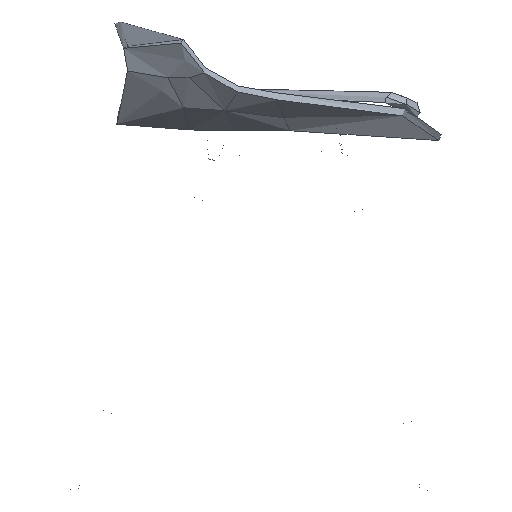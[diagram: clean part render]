
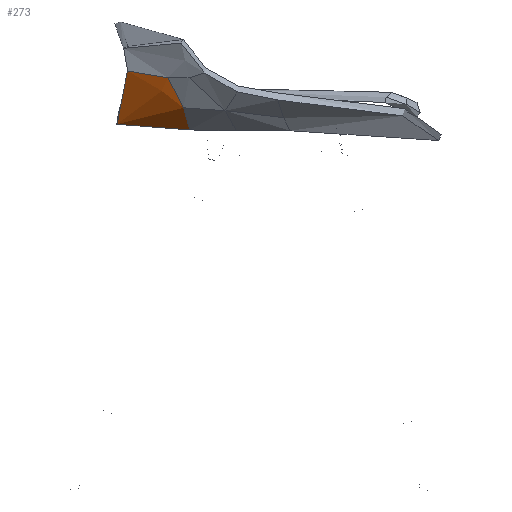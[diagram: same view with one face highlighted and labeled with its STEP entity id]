
A CAD part, left-side view. The second image highlights one B-rep face of the part: STEP entity #273.
In plain terms, the highlighted free-form (B-spline) face has degree [3, 3] with [8, 7] control points.
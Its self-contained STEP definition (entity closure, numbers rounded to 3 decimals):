
#273=ADVANCED_FACE('',(#398),#1859,.T.);
#398=FACE_OUTER_BOUND('',#523,.T.);
#523=EDGE_LOOP('',(#762,#763,#764,#765,#766));
#762=ORIENTED_EDGE('',*,*,#1247,.T.);
#763=ORIENTED_EDGE('',*,*,#1252,.F.);
#764=ORIENTED_EDGE('',*,*,#1256,.T.);
#765=ORIENTED_EDGE('',*,*,#1255,.F.);
#766=ORIENTED_EDGE('',*,*,#1248,.F.);
#1247=EDGE_CURVE('',#1684,#1694,#1539,.T.);
#1248=EDGE_CURVE('',#1684,#1685,#1540,.T.);
#1252=EDGE_CURVE('',#1698,#1694,#1544,.T.);
#1255=EDGE_CURVE('',#1685,#1691,#1547,.T.);
#1256=EDGE_CURVE('',#1698,#1691,#1548,.T.);
#1539=B_SPLINE_CURVE_WITH_KNOTS('',3,(#8699,#8700,#8701,#8702,#8703,#8704,
#8705,#8706),.UNSPECIFIED.,.F.,.F.,(4,1,3,4),(-1.,-0.667,-0.333,
0.),.UNSPECIFIED.);
#1540=B_SPLINE_CURVE_WITH_KNOTS('',3,(#8707,#8708,#8709,#8710,#8711,#8712,
#8713,#8714,#8715),.UNSPECIFIED.,.F.,.F.,(4,1,1,1,1,1,4),(-1.,-0.75,-0.5,
-0.375,-0.25,-0.125,0.),.UNSPECIFIED.);
#1544=B_SPLINE_CURVE_WITH_KNOTS('',3,(#8743,#8744,#8745,#8746,#8747,#8748,
#8749),.UNSPECIFIED.,.F.,.F.,(4,1,1,1,4),(-1.,-0.75,-0.5,-0.25,0.),
 .UNSPECIFIED.);
#1547=B_SPLINE_CURVE_WITH_KNOTS('',3,(#8768,#8769,#8770,#8771,#8772,#8773,
#8774,#8775,#8776),.UNSPECIFIED.,.F.,.F.,(4,1,1,1,1,1,4),(-1.,-0.875,-0.75,
-0.625,-0.5,-0.25,0.),.UNSPECIFIED.);
#1548=B_SPLINE_CURVE_WITH_KNOTS('',3,(#8777,#8778,#8779,#8780,#8781,#8782,
#8783,#8784),.UNSPECIFIED.,.F.,.F.,(4,3,1,4),(-1.,-0.667,-0.333,
0.),.UNSPECIFIED.);
#1684=VERTEX_POINT('',#7961);
#1685=VERTEX_POINT('',#7962);
#1691=VERTEX_POINT('',#7968);
#1694=VERTEX_POINT('',#7971);
#1698=VERTEX_POINT('',#7975);
#1859=B_SPLINE_SURFACE_WITH_KNOTS('',3,3,((#5860,#5861,#5862,#5863,#5864,
#5865,#5866),(#5867,#5868,#5869,#5870,#5871,#5872,#5873),(#5874,#5875,#5876,
#5877,#5878,#5879,#5880),(#5881,#5882,#5883,#5884,#5885,#5886,#5887),(#5888,
#5889,#5890,#5891,#5892,#5893,#5894),(#5895,#5896,#5897,#5898,#5899,#5900,
#5901),(#5902,#5903,#5904,#5905,#5906,#5907,#5908),(#5909,#5910,#5911,#5912,
#5913,#5914,#5915)),.UNSPECIFIED.,.F.,.F.,.F.,(4,1,3,4),(4,1,1,1,4),(-2.,
-1.,0.,1.),(-2.,-1.,0.,1.,2.),.UNSPECIFIED.);
#5860=CARTESIAN_POINT('',(-221.75,141.453,520.63));
#5861=CARTESIAN_POINT('',(-219.235,138.069,514.161));
#5862=CARTESIAN_POINT('',(-213.581,130.629,500.993));
#5863=CARTESIAN_POINT('',(-201.883,120.779,482.274));
#5864=CARTESIAN_POINT('',(-185.627,115.57,466.317));
#5865=CARTESIAN_POINT('',(-172.377,114.221,458.154));
#5866=CARTESIAN_POINT('',(-165.306,113.836,454.85));
#5867=CARTESIAN_POINT('',(-220.903,146.316,521.035));
#5868=CARTESIAN_POINT('',(-218.509,143.299,514.704));
#5869=CARTESIAN_POINT('',(-213.148,136.763,501.844));
#5870=CARTESIAN_POINT('',(-201.89,128.295,483.372));
#5871=CARTESIAN_POINT('',(-185.919,124.009,467.127));
#5872=CARTESIAN_POINT('',(-172.74,123.081,458.644));
#5873=CARTESIAN_POINT('',(-165.671,122.884,455.206));
#5874=CARTESIAN_POINT('',(-219.102,156.168,522.165));
#5875=CARTESIAN_POINT('',(-216.952,153.839,516.117));
#5876=CARTESIAN_POINT('',(-212.148,148.935,503.843));
#5877=CARTESIAN_POINT('',(-201.722,142.886,485.778));
#5878=CARTESIAN_POINT('',(-186.365,140.184,468.941));
#5879=CARTESIAN_POINT('',(-173.38,140.04,459.812));
#5880=CARTESIAN_POINT('',(-166.336,140.24,456.09));
#5881=CARTESIAN_POINT('',(-217.198,165.405,523.669));
#5882=CARTESIAN_POINT('',(-215.278,163.642,517.901));
#5883=CARTESIAN_POINT('',(-210.961,160.034,506.143));
#5884=CARTESIAN_POINT('',(-201.256,155.928,488.37));
#5885=CARTESIAN_POINT('',(-186.523,154.684,470.987));
#5886=CARTESIAN_POINT('',(-173.804,155.416,461.251));
#5887=CARTESIAN_POINT('',(-166.833,156.087,457.245));
#5888=CARTESIAN_POINT('',(-216.246,169.653,524.449));
#5889=CARTESIAN_POINT('',(-214.435,168.137,518.814));
#5890=CARTESIAN_POINT('',(-210.342,165.095,507.295));
#5891=CARTESIAN_POINT('',(-200.965,161.895,489.652));
#5892=CARTESIAN_POINT('',(-186.527,161.448,472.028));
#5893=CARTESIAN_POINT('',(-173.951,162.692,462.013));
#5894=CARTESIAN_POINT('',(-167.031,163.626,457.871));
#5895=CARTESIAN_POINT('',(-214.343,178.15,526.009));
#5896=CARTESIAN_POINT('',(-212.749,177.126,520.641));
#5897=CARTESIAN_POINT('',(-209.104,175.216,509.599));
#5898=CARTESIAN_POINT('',(-200.384,173.829,492.218));
#5899=CARTESIAN_POINT('',(-186.533,174.977,474.11));
#5900=CARTESIAN_POINT('',(-174.244,177.244,463.538));
#5901=CARTESIAN_POINT('',(-167.427,178.705,459.122));
#5902=CARTESIAN_POINT('',(-212.443,185.165,527.683));
#5903=CARTESIAN_POINT('',(-211.039,184.484,522.553));
#5904=CARTESIAN_POINT('',(-207.763,183.382,511.911));
#5905=CARTESIAN_POINT('',(-199.574,183.546,494.731));
#5906=CARTESIAN_POINT('',(-186.238,186.566,476.266));
#5907=CARTESIAN_POINT('',(-174.278,190.149,465.232));
#5908=CARTESIAN_POINT('',(-167.621,192.249,460.567));
#5909=CARTESIAN_POINT('',(-210.543,192.181,529.356));
#5910=CARTESIAN_POINT('',(-209.328,191.843,524.465));
#5911=CARTESIAN_POINT('',(-206.421,191.548,514.223));
#5912=CARTESIAN_POINT('',(-198.764,193.263,497.245));
#5913=CARTESIAN_POINT('',(-185.943,198.155,478.422));
#5914=CARTESIAN_POINT('',(-174.312,203.053,466.927));
#5915=CARTESIAN_POINT('',(-167.815,205.792,462.013));
#7961=CARTESIAN_POINT('',(-221.75,141.453,520.63));
#7962=CARTESIAN_POINT('',(-201.123,121.553,482.734));
#7968=CARTESIAN_POINT('',(-165.306,113.836,454.85));
#7971=CARTESIAN_POINT('',(-210.543,192.181,529.356));
#7975=CARTESIAN_POINT('',(-167.815,205.792,462.013));
#8699=CARTESIAN_POINT('',(-221.75,141.453,520.63));
#8700=CARTESIAN_POINT('',(-220.903,146.316,521.035));
#8701=CARTESIAN_POINT('',(-219.102,156.168,522.165));
#8702=CARTESIAN_POINT('',(-217.198,165.405,523.669));
#8703=CARTESIAN_POINT('',(-216.246,169.653,524.449));
#8704=CARTESIAN_POINT('',(-214.343,178.15,526.009));
#8705=CARTESIAN_POINT('',(-212.443,185.165,527.683));
#8706=CARTESIAN_POINT('',(-210.543,192.181,529.356));
#8707=CARTESIAN_POINT('',(-221.75,141.453,520.63));
#8708=CARTESIAN_POINT('',(-220.493,139.761,517.396));
#8709=CARTESIAN_POINT('',(-217.822,136.209,510.869));
#8710=CARTESIAN_POINT('',(-213.953,131.695,502.747));
#8711=CARTESIAN_POINT('',(-210.456,128.248,496.378));
#8712=CARTESIAN_POINT('',(-207.611,125.797,491.693));
#8713=CARTESIAN_POINT('',(-204.523,123.532,487.126));
#8714=CARTESIAN_POINT('',(-202.288,122.18,484.179));
#8715=CARTESIAN_POINT('',(-201.123,121.553,482.734));
#8743=CARTESIAN_POINT('',(-167.815,205.792,462.013));
#8744=CARTESIAN_POINT('',(-174.312,203.053,466.927));
#8745=CARTESIAN_POINT('',(-185.943,198.155,478.422));
#8746=CARTESIAN_POINT('',(-198.764,193.263,497.245));
#8747=CARTESIAN_POINT('',(-206.421,191.548,514.223));
#8748=CARTESIAN_POINT('',(-209.328,191.843,524.465));
#8749=CARTESIAN_POINT('',(-210.543,192.181,529.356));
#8768=CARTESIAN_POINT('',(-201.123,121.553,482.734));
#8769=CARTESIAN_POINT('',(-199.959,120.925,481.29));
#8770=CARTESIAN_POINT('',(-197.534,119.767,478.457));
#8771=CARTESIAN_POINT('',(-193.627,118.297,474.397));
#8772=CARTESIAN_POINT('',(-189.465,117.071,470.538));
#8773=CARTESIAN_POINT('',(-183.594,115.733,465.684));
#8774=CARTESIAN_POINT('',(-175.69,114.559,460.195));
#8775=CARTESIAN_POINT('',(-168.841,114.029,456.502));
#8776=CARTESIAN_POINT('',(-165.306,113.836,454.85));
#8777=CARTESIAN_POINT('',(-167.815,205.792,462.013));
#8778=CARTESIAN_POINT('',(-167.621,192.249,460.567));
#8779=CARTESIAN_POINT('',(-167.427,178.705,459.122));
#8780=CARTESIAN_POINT('',(-167.031,163.626,457.871));
#8781=CARTESIAN_POINT('',(-166.833,156.087,457.245));
#8782=CARTESIAN_POINT('',(-166.336,140.24,456.09));
#8783=CARTESIAN_POINT('',(-165.671,122.884,455.206));
#8784=CARTESIAN_POINT('',(-165.306,113.836,454.85));
